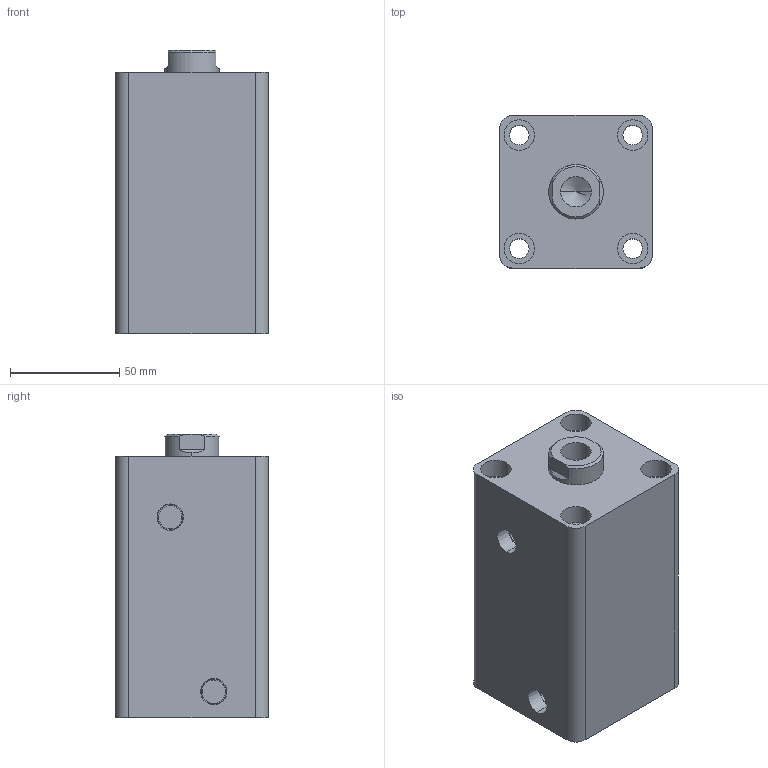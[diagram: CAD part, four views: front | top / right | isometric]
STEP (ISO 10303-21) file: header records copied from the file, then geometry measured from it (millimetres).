
FILE_DESCRIPTION (( 'STEP AP203' ), '1' );
FILE_NAME ('HTB-SD40-65N.STEP', '2019-10-07T06:54:29', ( '微软用户' ), ( '微软中国' ), 'SwSTEP 2.0', 'SolidWorks 2012', '' );
FILE_SCHEMA (( 'CONFIG_CONTROL_DESIGN' ));
Length unit declared in the file: millimetre
Products named in the file (3): HTB-SD40-65N活塞杆; HTB-SD40-65掛极; HTB-SD40-65N
Assembly tree (2 placements, depth 2):
  HTB-SD40-65N
    HTB-SD40-65掛极
    HTB-SD40-65N活塞杆
Bounding box: 70 x 70 x 130 mm (x, y, z)
Volume: 496935.4 mm3; surface area: 84635.3 mm2
Topology: 2 solids, 2 shells, 81 faces, 180 edges, 117 vertices
Faces by surface type: cylinder 42, plane 27, cone 8, torus 4
Entity records: 2603 total; most frequent: DIRECTION 444, CARTESIAN_POINT 409, ORIENTED_EDGE 356, AXIS2_PLACEMENT_3D 188, EDGE_CURVE 178, VERTEX_POINT 117, EDGE_LOOP 105, CIRCLE 102
